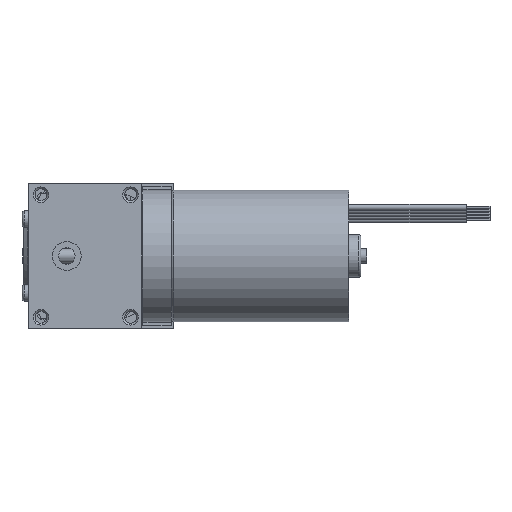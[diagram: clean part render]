
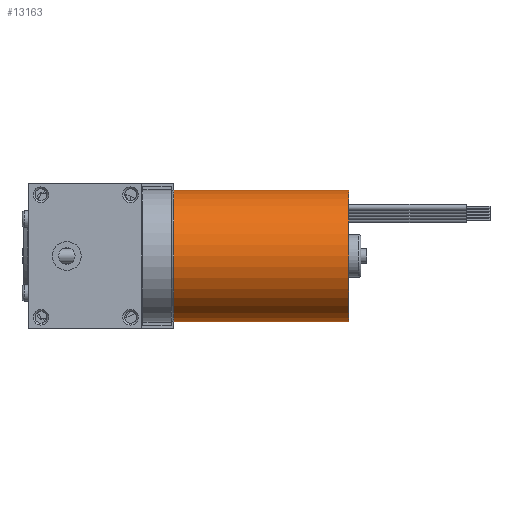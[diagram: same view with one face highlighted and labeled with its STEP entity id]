
A CAD part, front view. The second image highlights one B-rep face of the part: STEP entity #13163.
In plain terms, the highlighted cylindrical face has radius 13.95 mm (diameter 27.9 mm), a full revolution.
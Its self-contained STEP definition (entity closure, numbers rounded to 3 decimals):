
#1919 = CIRCLE ( 'NONE', #5071, 13.95 ) ;
#3532 = DIRECTION ( 'NONE',  ( -1., 0., 0. ) ) ;
#3586 = CYLINDRICAL_SURFACE ( 'NONE', #13690, 13.95 ) ;
#4903 = EDGE_CURVE ( 'NONE', #6261, #6261, #1919, .T. ) ;
#5071 = AXIS2_PLACEMENT_3D ( 'NONE', #6072, #3532, #18476 ) ;
#5546 = EDGE_LOOP ( 'NONE', ( #10026 ) ) ;
#6072 = CARTESIAN_POINT ( 'NONE',  ( 52.5, 0., 0. ) ) ;
#6261 = VERTEX_POINT ( 'NONE', #9769 ) ;
#6887 = FACE_OUTER_BOUND ( 'NONE', #5546, .T. ) ;
#7122 = DIRECTION ( 'NONE',  ( -1., 0., 0. ) ) ;
#7458 = ORIENTED_EDGE ( 'NONE', *, *, #11127, .T. ) ;
#8005 = EDGE_LOOP ( 'NONE', ( #7458 ) ) ;
#8196 = DIRECTION ( 'NONE',  ( 0., 0.5, 0.866 ) ) ;
#9434 = CIRCLE ( 'NONE', #11375, 13.95 ) ;
#9610 = VERTEX_POINT ( 'NONE', #20180 ) ;
#9769 = CARTESIAN_POINT ( 'NONE',  ( 52.5, -6.975, -12.081 ) ) ;
#10026 = ORIENTED_EDGE ( 'NONE', *, *, #4903, .T. ) ;
#11127 = EDGE_CURVE ( 'NONE', #9610, #9610, #9434, .T. ) ;
#11375 = AXIS2_PLACEMENT_3D ( 'NONE', #14054, #21435, #8196 ) ;
#12355 = DIRECTION ( 'NONE',  ( 0., -0.5, -0.866 ) ) ;
#13163 = ADVANCED_FACE ( 'NONE', ( #23603, #6887 ), #3586, .T. ) ;
#13690 = AXIS2_PLACEMENT_3D ( 'NONE', #23951, #7122, #12355 ) ;
#14054 = CARTESIAN_POINT ( 'NONE',  ( 15.4, 0., 0. ) ) ;
#18476 = DIRECTION ( 'NONE',  ( 0., -0.5, -0.866 ) ) ;
#20180 = CARTESIAN_POINT ( 'NONE',  ( 15.4, 6.975, 12.081 ) ) ;
#21435 = DIRECTION ( 'NONE',  ( 1., 0., 0. ) ) ;
#23603 = FACE_OUTER_BOUND ( 'NONE', #8005, .T. ) ;
#23951 = CARTESIAN_POINT ( 'NONE',  ( -16.6, 0., 0. ) ) ;
